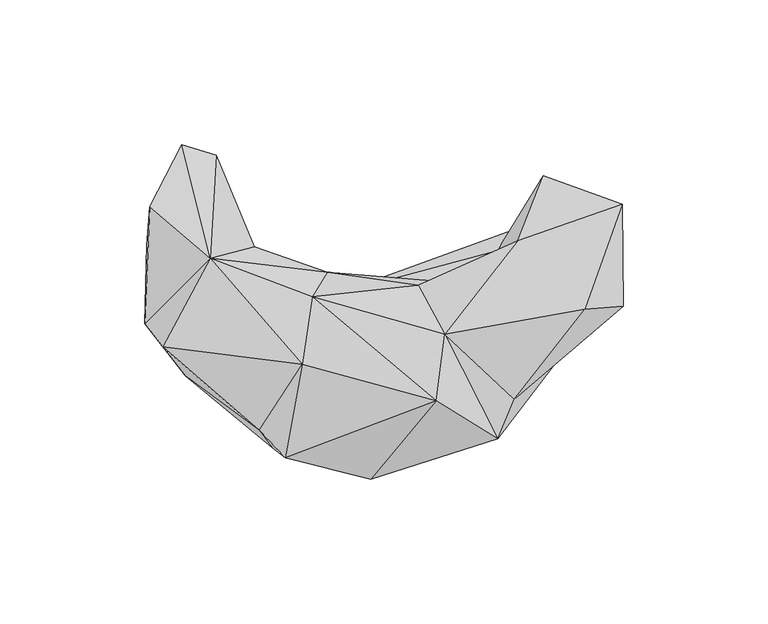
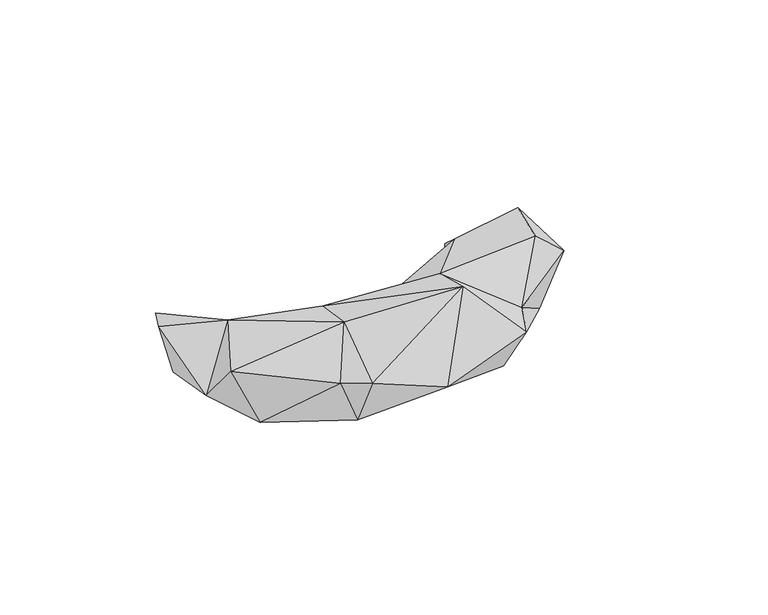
"""IFC4 building model written with IfcOpenShell, lengths in millimetres: geographic element geometry, Enscape AssetDefinition - Food 024 Pastry : Enscape AssetDefinition - Food 024 Pastry."""

from ifc_helpers import new_model, si_unit, origin, place, context, project, spatial, triangles, source, transform, mapped, element, save


def geographic_element_748f541f(model_context):
    return source(origin(), model_context, "Body", "Tessellation", [
        triangles([(82.2840036, 36.1119991, 18.3049998), (54.9990003, 46.0829975, 4.493), (46.1830004, 23.5370013, 23.4539985), (82.7519983, 0.962, 18.7279993), (69.3020017, -0.185, 31.1600007), (21.0059989, -8.7369996, 35.2240014), (16.3649986, 9.6340004, 6.3710001), (39.1710011, 20.0969996, 4.0699999), (71.9460037, 37.2090002, 1.694), (11.6940003, 8.0610002, 21.6290009), (-15.7769996, 5.3369999, 1.3279999), (-24.8550009, 4.1089998, 28.0709996), (17.9919989, -31.8380003, 44.0480018), (45.0269982, -31.298998, 24.3710006), (63.7940031, -12.8530002, 6.1759999), (-4.5770002, -58.9959992, 20.2890005), (39.2649997, -44.9849994, 22.9479997), (-28.4160003, -19.1390003, 35.7489989), (-38.828998, -47.8059982, 9.7580004), (32.6399999, -38.2760022, 4.769), (-44.8709984, 21.5409998, -0.285), (-58.070002, 53.0629993, 4.4640001), (-19.7039981, 12.6350005, 7.6270003), (-60.1549992, 17.4250004, 25.6579996), (-34.217999, -51.4839986, 27.8239989), (-43.2120017, -41.9759989, 25.1490009), (-76.546, -13.1359998, 25.1490009), (-68.8360054, -23.2300001, 4.071), (-82.887001, -5.1520003, 11.0359997), (-70.0260037, 56.804, 8.583), (-81.1079944, 35.3789997, 18.9709998), (-82.1769971, 21.9860013, 5.564)], [[30, 22, 32], [30, 24, 22], [31, 30, 32], [24, 30, 31], [31, 29, 24], [29, 31, 32], [29, 32, 28], [27, 29, 28], [29, 27, 24], [28, 19, 26], [19, 25, 26], [27, 28, 26], [24, 27, 18], [25, 18, 26], [26, 18, 27], [18, 12, 24], [12, 23, 24], [24, 21, 22], [28, 32, 21], [32, 22, 21], [23, 21, 24], [11, 28, 21], [11, 21, 23], [9, 4, 15], [20, 28, 11], [20, 9, 15], [28, 20, 19], [11, 9, 20], [16, 19, 20], [16, 25, 19], [25, 16, 13], [18, 13, 12], [25, 13, 18], [20, 15, 17], [16, 17, 13], [16, 20, 17], [14, 17, 15], [4, 14, 15], [4, 5, 14], [5, 6, 14], [13, 17, 6], [17, 14, 6], [13, 6, 12], [10, 12, 6], [10, 23, 12], [7, 11, 23], [10, 7, 23], [8, 11, 7], [11, 8, 9], [7, 3, 8], [3, 10, 6], [5, 3, 6], [10, 3, 7], [5, 1, 3], [4, 1, 5], [1, 4, 9], [3, 1, 2], [8, 2, 9], [3, 2, 8], [2, 1, 9]]),
    ])


if __name__ == "__main__":
    model = new_model("IFC4")
    model_context = context("Model", 3, world=origin())
    ifc_project = project(units=[si_unit("LENGTHUNIT", "METRE", prefix="MILLI")], contexts=[model_context])
    site = spatial("IfcSite", under=ifc_project)
    building = spatial("IfcBuilding", under=site)
    placement = place(None, origin())
    geographic_element_shape = geographic_element_748f541f(model_context)
    element("IfcGeographicElement", 1, ObjectType="Enscape AssetDefinition - Food 024 Pastry : Enscape AssetDefinition - Food 024 Pastry", at=placement, inside=building, context=model_context, shape_type="MappedRepresentation", body=[
        mapped(geographic_element_shape, transform((0.0, 0.0, 0.0), x_axis=(1.0, 0.0, 0.0), y_axis=(0.0, 1.0, 0.0), z_axis=(0.0, 0.0, 1.0))),
    ])
    save(model, "model.ifc")
